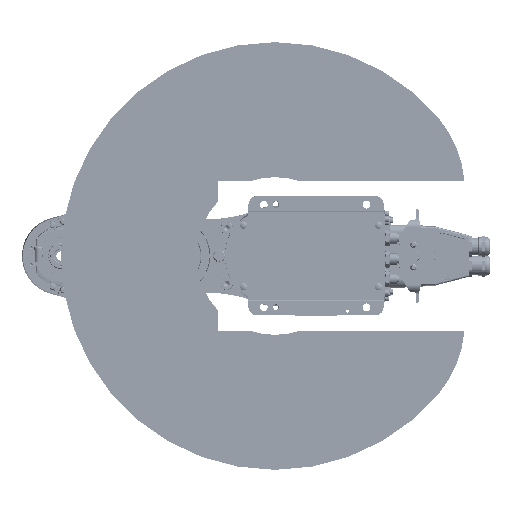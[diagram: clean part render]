
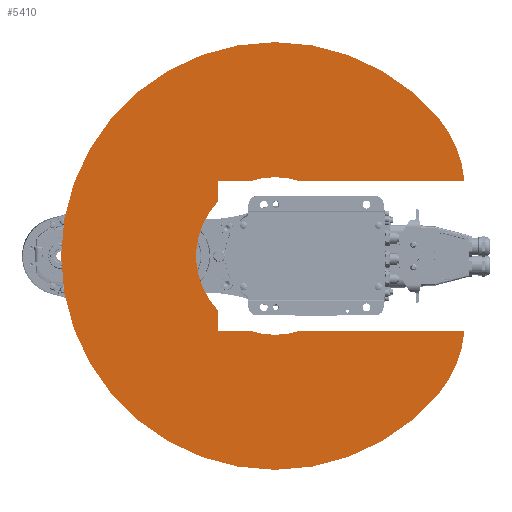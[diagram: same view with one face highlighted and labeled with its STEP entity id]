
A CAD part, front view. The second image highlights one B-rep face of the part: STEP entity #5410.
In plain terms, the highlighted planar face has unit normal (0, -1, 0).
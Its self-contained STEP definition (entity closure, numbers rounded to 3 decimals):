
#5410 = ADVANCED_FACE( '', ( #14525 ), #14526, .F. );
#14525 = FACE_OUTER_BOUND( '', #28869, .T. );
#14526 = PLANE( '', #28870 );
#28869 = EDGE_LOOP( '', ( #47041, #47042, #47043, #47044, #47045, #47046, #47047, #47048, #47049, #47050, #47051, #47052 ) );
#28870 = AXIS2_PLACEMENT_3D( '', #47053, #47054, #47055 );
#47041 = ORIENTED_EDGE( '', *, *, #80218, .T. );
#47042 = ORIENTED_EDGE( '', *, *, #80219, .F. );
#47043 = ORIENTED_EDGE( '', *, *, #80220, .F. );
#47044 = ORIENTED_EDGE( '', *, *, #78957, .F. );
#47045 = ORIENTED_EDGE( '', *, *, #80221, .T. );
#47046 = ORIENTED_EDGE( '', *, *, #80222, .T. );
#47047 = ORIENTED_EDGE( '', *, *, #80223, .T. );
#47048 = ORIENTED_EDGE( '', *, *, #80224, .T. );
#47049 = ORIENTED_EDGE( '', *, *, #80225, .T. );
#47050 = ORIENTED_EDGE( '', *, *, #80226, .T. );
#47051 = ORIENTED_EDGE( '', *, *, #80227, .T. );
#47052 = ORIENTED_EDGE( '', *, *, #80228, .T. );
#47053 = CARTESIAN_POINT( '', ( 38.567, 0., 45.963 ) );
#47054 = DIRECTION( '', ( 0., 1., 0. ) );
#47055 = DIRECTION( '', ( 0., 0., 1. ) );
#78957 = EDGE_CURVE( '', #93305, #93308, #93309, .T. );
#80218 = EDGE_CURVE( '', #95508, #95509, #95510, .T. );
#80219 = EDGE_CURVE( '', #95511, #95509, #95512, .T. );
#80220 = EDGE_CURVE( '', #93308, #95511, #95513, .T. );
#80221 = EDGE_CURVE( '', #93305, #95514, #95515, .T. );
#80222 = EDGE_CURVE( '', #95514, #95516, #95517, .T. );
#80223 = EDGE_CURVE( '', #95516, #95518, #95519, .T. );
#80224 = EDGE_CURVE( '', #95518, #95520, #95521, .T. );
#80225 = EDGE_CURVE( '', #95520, #95522, #95523, .T. );
#80226 = EDGE_CURVE( '', #95522, #95524, #95525, .T. );
#80227 = EDGE_CURVE( '', #95524, #95526, #95527, .T. );
#80228 = EDGE_CURVE( '', #95526, #95508, #95528, .T. );
#93305 = VERTEX_POINT( '', #114597 );
#93308 = VERTEX_POINT( '', #114601 );
#93309 = CIRCLE( '', #114602, 130. );
#95508 = VERTEX_POINT( '', #118191 );
#95509 = VERTEX_POINT( '', #118192 );
#95510 = LINE( '', #118193, #118194 );
#95511 = VERTEX_POINT( '', #118195 );
#95512 = CIRCLE( '', #118196, 130. );
#95513 = CIRCLE( '', #118197, 250. );
#95514 = VERTEX_POINT( '', #118198 );
#95515 = LINE( '', #118199, #118200 );
#95516 = VERTEX_POINT( '', #118201 );
#95517 = CIRCLE( '', #118202, 92.1 );
#95518 = VERTEX_POINT( '', #118203 );
#95519 = LINE( '', #118204, #118205 );
#95520 = VERTEX_POINT( '', #118206 );
#95521 = LINE( '', #118207, #118208 );
#95522 = VERTEX_POINT( '', #118209 );
#95523 = CIRCLE( '', #118210, 92.1 );
#95524 = VERTEX_POINT( '', #118211 );
#95525 = LINE( '', #118212, #118213 );
#95526 = VERTEX_POINT( '', #118214 );
#95527 = LINE( '', #118215, #118216 );
#95528 = CIRCLE( '', #118217, 92.1 );
#114597 = CARTESIAN_POINT( '', ( 88., 0., 221.47 ) );
#114601 = CARTESIAN_POINT( '', ( 160.697, 0., 191.511 ) );
#114602 = AXIS2_PLACEMENT_3D( '', #145588, #145589, #145590 );
#118191 = CARTESIAN_POINT( '', ( -88., 0., 27.174 ) );
#118192 = CARTESIAN_POINT( '', ( -88., 0., 221.47 ) );
#118193 = CARTESIAN_POINT( '', ( -88., 0., -66. ) );
#118194 = VECTOR( '', #146990, 1000. );
#118195 = CARTESIAN_POINT( '', ( -160.697, 0., 191.511 ) );
#118196 = AXIS2_PLACEMENT_3D( '', #146991, #146992, #146993 );
#118197 = AXIS2_PLACEMENT_3D( '', #146994, #146995, #146996 );
#118198 = CARTESIAN_POINT( '', ( 88., 0., 27.174 ) );
#118199 = CARTESIAN_POINT( '', ( 88., 0., 334. ) );
#118200 = VECTOR( '', #146997, 1000. );
#118201 = CARTESIAN_POINT( '', ( 88., 0., -27.174 ) );
#118202 = AXIS2_PLACEMENT_3D( '', #146998, #146999, #147000 );
#118203 = CARTESIAN_POINT( '', ( 88., 0., -66. ) );
#118204 = CARTESIAN_POINT( '', ( 88., 0., 334. ) );
#118205 = VECTOR( '', #147001, 1000. );
#118206 = CARTESIAN_POINT( '', ( 64.237, 0., -66. ) );
#118207 = CARTESIAN_POINT( '', ( 88., 0., -66. ) );
#118208 = VECTOR( '', #147002, 1000. );
#118209 = CARTESIAN_POINT( '', ( -64.237, 0., -66. ) );
#118210 = AXIS2_PLACEMENT_3D( '', #147003, #147004, #147005 );
#118211 = CARTESIAN_POINT( '', ( -88., 0., -66. ) );
#118212 = CARTESIAN_POINT( '', ( 88., 0., -66. ) );
#118213 = VECTOR( '', #147006, 1000. );
#118214 = CARTESIAN_POINT( '', ( -88., 0., -27.174 ) );
#118215 = CARTESIAN_POINT( '', ( -88., 0., -66. ) );
#118216 = VECTOR( '', #147007, 1000. );
#118217 = AXIS2_PLACEMENT_3D( '', #147008, #147009, #147010 );
#145588 = CARTESIAN_POINT( '', ( 77.135, 0., 91.925 ) );
#145589 = DIRECTION( '', ( 0., 1., 0. ) );
#145590 = DIRECTION( '', ( 1., 0., 0. ) );
#146990 = DIRECTION( '', ( 0., 0., 1. ) );
#146991 = CARTESIAN_POINT( '', ( -77.135, 0., 91.925 ) );
#146992 = DIRECTION( '', ( 0., 1., 0. ) );
#146993 = DIRECTION( '', ( 1., 0., 0. ) );
#146994 = CARTESIAN_POINT( '', ( 0., 0., 0. ) );
#146995 = DIRECTION( '', ( 0., 1., 0. ) );
#146996 = DIRECTION( '', ( 1., 0., 0. ) );
#146997 = DIRECTION( '', ( 0., 0., -1. ) );
#146998 = CARTESIAN_POINT( '', ( 0., 0., 0. ) );
#146999 = DIRECTION( '', ( 0., 1., 0. ) );
#147000 = DIRECTION( '', ( 1., 0., 0. ) );
#147001 = DIRECTION( '', ( 0., 0., -1. ) );
#147002 = DIRECTION( '', ( -1., 0., 0. ) );
#147003 = CARTESIAN_POINT( '', ( 0., 0., 0. ) );
#147004 = DIRECTION( '', ( 0., 1., 0. ) );
#147005 = DIRECTION( '', ( 1., 0., 0. ) );
#147006 = DIRECTION( '', ( -1., 0., 0. ) );
#147007 = DIRECTION( '', ( 0., 0., 1. ) );
#147008 = CARTESIAN_POINT( '', ( 0., 0., 0. ) );
#147009 = DIRECTION( '', ( 0., 1., 0. ) );
#147010 = DIRECTION( '', ( 1., 0., 0. ) );
